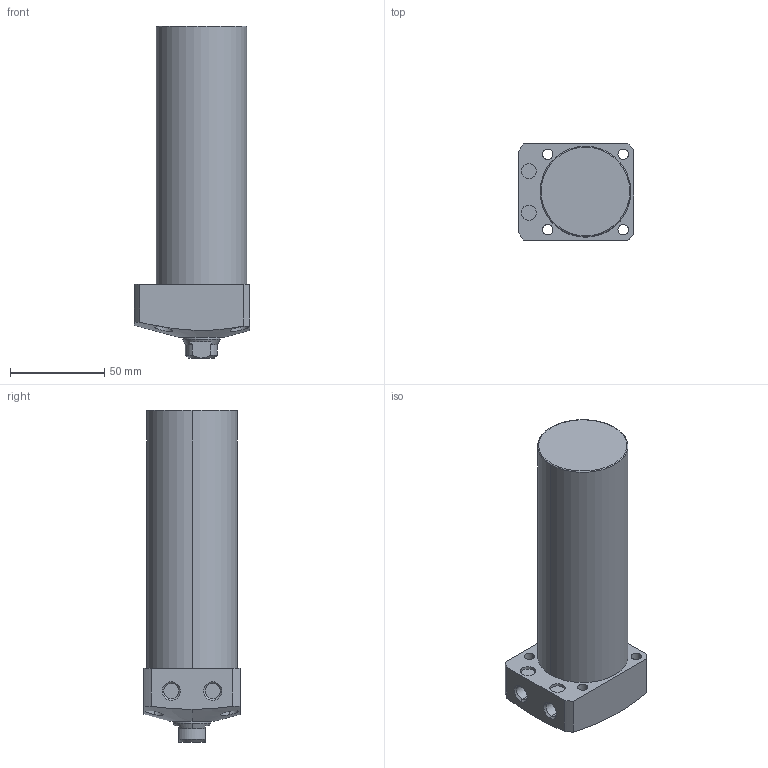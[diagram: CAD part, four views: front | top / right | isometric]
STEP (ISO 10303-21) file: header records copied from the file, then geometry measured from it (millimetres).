
FILE_DESCRIPTION (( 'STEP AP203' ), '1' );
FILE_NAME ('CLL-048CA-110.STEP', '2019-12-21T07:08:38', ( '' ), ( '' ), 'SwSTEP 2.0', 'SolidWorks 2015', '' );
FILE_SCHEMA (( 'CONFIG_CONTROL_DESIGN' ));
Length unit declared in the file: millimetre
Products named in the file (1): CLL-048CA-110
Bounding box: 61 x 51 x 176 mm (x, y, z)
Volume: 322109.7 mm3; surface area: 35435.5 mm2
Topology: 1 solids, 1 shells, 74 faces, 170 edges, 107 vertices
Faces by surface type: cylinder 35, plane 22, cone 15, torus 2
Entity records: 2535 total; most frequent: CARTESIAN_POINT 748, DIRECTION 374, ORIENTED_EDGE 336, EDGE_CURVE 168, AXIS2_PLACEMENT_3D 155, VERTEX_POINT 107, EDGE_LOOP 93, CIRCLE 80
